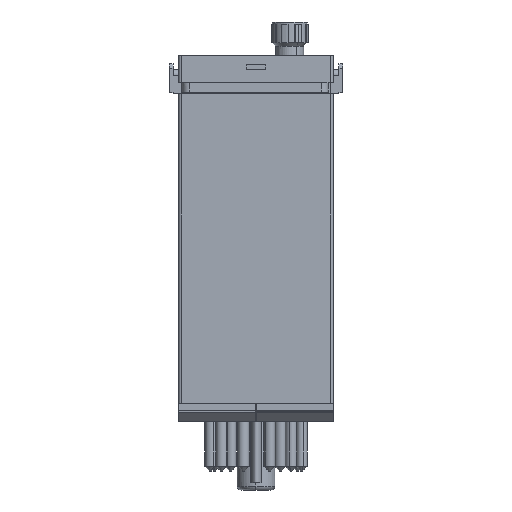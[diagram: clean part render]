
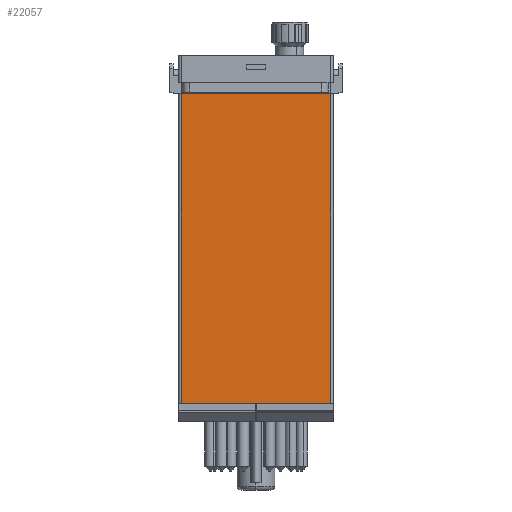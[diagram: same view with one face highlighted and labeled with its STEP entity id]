
A CAD part, front view. The second image highlights one B-rep face of the part: STEP entity #22057.
In plain terms, the highlighted planar face has unit normal (0, -1, 0).
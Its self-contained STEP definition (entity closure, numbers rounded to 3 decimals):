
#1051 = VECTOR ( 'NONE', #9070, 1000. ) ;
#2317 = CARTESIAN_POINT ( 'NONE',  ( 2.5, 0.6, -36.567 ) ) ;
#3893 = ORIENTED_EDGE ( 'NONE', *, *, #22743, .F. ) ;
#4985 = CARTESIAN_POINT ( 'NONE',  ( 2.5, 0.6, 82.22 ) ) ;
#6080 = VECTOR ( 'NONE', #18822, 1000. ) ;
#6897 = ORIENTED_EDGE ( 'NONE', *, *, #14846, .F. ) ;
#6953 = VERTEX_POINT ( 'NONE', #9167 ) ;
#9070 = DIRECTION ( 'NONE',  ( 0., 0., 1. ) ) ;
#9167 = CARTESIAN_POINT ( 'NONE',  ( 2.5, 0.6, 82.22 ) ) ;
#9624 = ORIENTED_EDGE ( 'NONE', *, *, #21878, .F. ) ;
#10887 = DIRECTION ( 'NONE',  ( 0., -1., 0. ) ) ;
#10899 = VECTOR ( 'NONE', #20803, 1000. ) ;
#11196 = LINE ( 'NONE', #16379, #6080 ) ;
#13072 = CARTESIAN_POINT ( 'NONE',  ( 2.5, 0.6, 17.92 ) ) ;
#13622 = LINE ( 'NONE', #4985, #10899 ) ;
#14846 = EDGE_CURVE ( 'NONE', #6953, #25474, #13622, .T. ) ;
#14872 = CARTESIAN_POINT ( 'NONE',  ( 33.5, 0.6, 82.22 ) ) ;
#15144 = VECTOR ( 'NONE', #18354, 1000. ) ;
#15567 = LINE ( 'NONE', #2317, #1051 ) ;
#16187 = LINE ( 'NONE', #18634, #15144 ) ;
#16379 = CARTESIAN_POINT ( 'NONE',  ( 2.5, 0.6, 17.92 ) ) ;
#17222 = DIRECTION ( 'NONE',  ( 1., 0., 0. ) ) ;
#18354 = DIRECTION ( 'NONE',  ( 0., 0., 1. ) ) ;
#18634 = CARTESIAN_POINT ( 'NONE',  ( 33.5, 0.6, -36.567 ) ) ;
#18822 = DIRECTION ( 'NONE',  ( -1., 0., 0. ) ) ;
#19192 = EDGE_CURVE ( 'NONE', #25535, #25474, #16187, .T. ) ;
#19902 = EDGE_LOOP ( 'NONE', ( #6897, #3893, #9624, #20596 ) ) ;
#20355 = AXIS2_PLACEMENT_3D ( 'NONE', #28169, #10887, #17222 ) ;
#20596 = ORIENTED_EDGE ( 'NONE', *, *, #19192, .T. ) ;
#20803 = DIRECTION ( 'NONE',  ( 1., 0., 0. ) ) ;
#21709 = VERTEX_POINT ( 'NONE', #13072 ) ;
#21878 = EDGE_CURVE ( 'NONE', #25535, #21709, #11196, .T. ) ;
#21963 = FACE_OUTER_BOUND ( 'NONE', #19902, .T. ) ;
#22057 = ADVANCED_FACE ( 'NONE', ( #21963 ), #25858, .T. ) ;
#22743 = EDGE_CURVE ( 'NONE', #21709, #6953, #15567, .T. ) ;
#23392 = CARTESIAN_POINT ( 'NONE',  ( 33.5, 0.6, 17.92 ) ) ;
#25474 = VERTEX_POINT ( 'NONE', #14872 ) ;
#25535 = VERTEX_POINT ( 'NONE', #23392 ) ;
#25858 = PLANE ( 'NONE',  #20355 ) ;
#28169 = CARTESIAN_POINT ( 'NONE',  ( 2.5, 0.6, -36.567 ) ) ;
